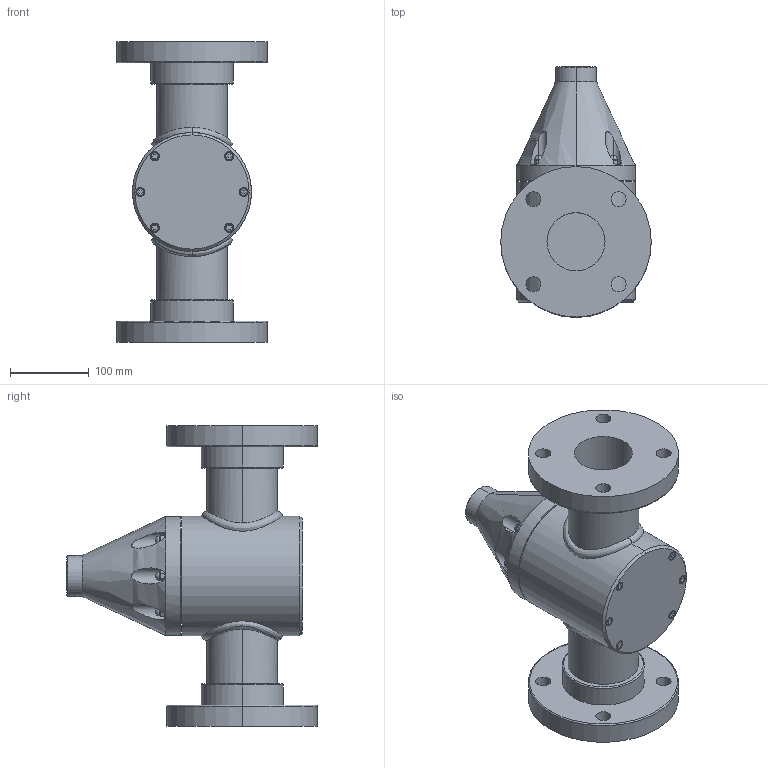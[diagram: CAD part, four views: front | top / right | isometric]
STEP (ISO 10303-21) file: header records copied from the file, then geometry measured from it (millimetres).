
FILE_DESCRIPTION (( 'STEP AP203' ), '1' );
FILE_NAME ('GPR3000-FLNG.STEP', '2016-02-12T10:29:11', ( '' ), ( '' ), 'SwSTEP 2.0', 'SolidWorks 2014', '' );
FILE_SCHEMA (( 'CONFIG_CONTROL_DESIGN' ));
Length unit declared in the file: inch
Products named in the file (2): GPR3000-FLNG
Bounding box: 190.5 x 317.5 x 381 mm (x, y, z)
Volume: 6124243 mm3; surface area: 388629 mm2
Topology: 1 solids, 1 shells, 291 faces, 667 edges, 425 vertices
Faces by surface type: plane 131, cylinder 112, cone 22, torus 20, bspline 6
Entity records: 13051 total; most frequent: CARTESIAN_POINT 6134, DIRECTION 1474, ORIENTED_EDGE 1334, EDGE_CURVE 667, AXIS2_PLACEMENT_3D 561, VERTEX_POINT 425, EDGE_LOOP 354, VECTOR 352
